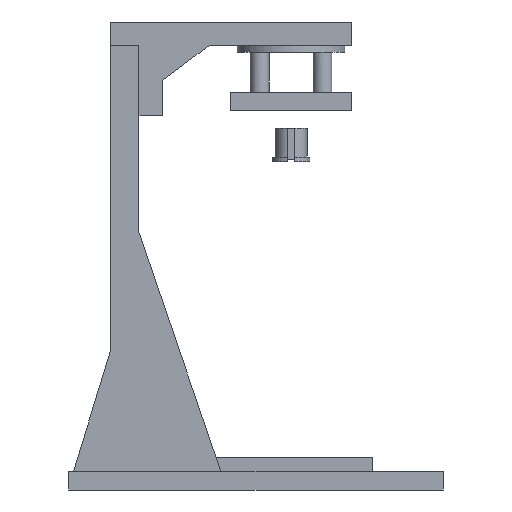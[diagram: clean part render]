
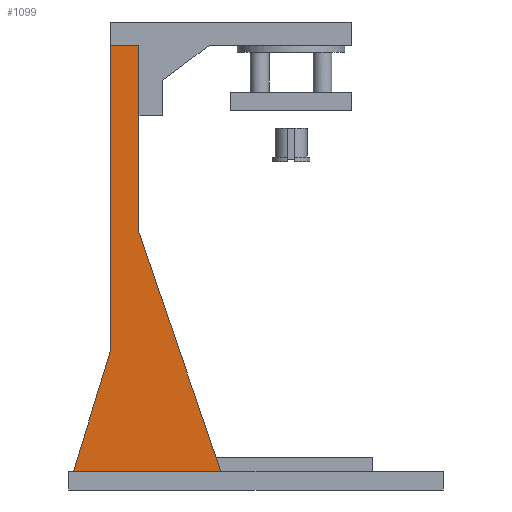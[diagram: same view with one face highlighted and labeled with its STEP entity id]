
A CAD part, left-side view. The second image highlights one B-rep face of the part: STEP entity #1099.
In plain terms, the highlighted planar face has unit normal (-1, 0, 0).
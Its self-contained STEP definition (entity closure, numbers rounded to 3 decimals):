
#156 = PLANE('',#157);
#157 = AXIS2_PLACEMENT_3D('',#158,#159,#160);
#158 = CARTESIAN_POINT('',(0.,0.,8.));
#159 = DIRECTION('',(0.,0.,1.));
#160 = DIRECTION('',(1.,0.,0.));
#410 = VERTEX_POINT('',#411);
#411 = CARTESIAN_POINT('',(45.,95.,8.));
#427 = PLANE('',#428);
#428 = AXIS2_PLACEMENT_3D('',#429,#430,#431);
#429 = CARTESIAN_POINT('',(45.,130.,110.));
#430 = DIRECTION('',(0.,0.946,-0.325));
#431 = DIRECTION('',(0.,-0.325,-0.946));
#439 = EDGE_CURVE('',#410,#440,#442,.T.);
#440 = VERTEX_POINT('',#441);
#441 = CARTESIAN_POINT('',(45.,158.,8.));
#442 = SURFACE_CURVE('',#443,(#447,#454),.PCURVE_S1.);
#443 = LINE('',#444,#445);
#444 = CARTESIAN_POINT('',(45.,95.,8.));
#445 = VECTOR('',#446,1.);
#446 = DIRECTION('',(0.,1.,0.));
#447 = PCURVE('',#156,#448);
#448 = DEFINITIONAL_REPRESENTATION('',(#449),#453);
#449 = LINE('',#450,#451);
#450 = CARTESIAN_POINT('',(45.,95.));
#451 = VECTOR('',#452,1.);
#452 = DIRECTION('',(0.,1.));
#453 = ( GEOMETRIC_REPRESENTATION_CONTEXT(2) 
PARAMETRIC_REPRESENTATION_CONTEXT() REPRESENTATION_CONTEXT('2D SPACE',''
  ) );
#454 = PCURVE('',#455,#460);
#455 = PLANE('',#456);
#456 = AXIS2_PLACEMENT_3D('',#457,#458,#459);
#457 = CARTESIAN_POINT('',(45.,146.601,30.601));
#458 = DIRECTION('',(1.,0.,0.));
#459 = DIRECTION('',(-0.,0.,1.));
#460 = DEFINITIONAL_REPRESENTATION('',(#461),#465);
#461 = LINE('',#462,#463);
#462 = CARTESIAN_POINT('',(-22.601,51.601));
#463 = VECTOR('',#464,1.);
#464 = DIRECTION('',(0.,-1.));
#465 = ( GEOMETRIC_REPRESENTATION_CONTEXT(2) 
PARAMETRIC_REPRESENTATION_CONTEXT() REPRESENTATION_CONTEXT('2D SPACE',''
  ) );
#483 = PLANE('',#484);
#484 = AXIS2_PLACEMENT_3D('',#485,#486,#487);
#485 = CARTESIAN_POINT('',(45.,158.,8.));
#486 = DIRECTION('',(0.,-0.956,-0.294));
#487 = DIRECTION('',(0.,-0.294,0.956));
#539 = PLANE('',#540);
#540 = AXIS2_PLACEMENT_3D('',#541,#542,#543);
#541 = CARTESIAN_POINT('',(45.,142.,8.));
#542 = DIRECTION('',(0.,1.,0.));
#543 = DIRECTION('',(0.,0.,1.));
#707 = PLANE('',#708);
#708 = AXIS2_PLACEMENT_3D('',#709,#710,#711);
#709 = CARTESIAN_POINT('',(45.,130.,8.));
#710 = DIRECTION('',(0.,1.,0.));
#711 = DIRECTION('',(0.,0.,1.));
#1033 = VERTEX_POINT('',#1034);
#1034 = CARTESIAN_POINT('',(45.,130.,110.));
#1079 = EDGE_CURVE('',#1033,#410,#1080,.T.);
#1080 = SURFACE_CURVE('',#1081,(#1085,#1092),.PCURVE_S1.);
#1081 = LINE('',#1082,#1083);
#1082 = CARTESIAN_POINT('',(45.,130.,110.));
#1083 = VECTOR('',#1084,1.);
#1084 = DIRECTION('',(0.,-0.325,-0.946));
#1085 = PCURVE('',#427,#1086);
#1086 = DEFINITIONAL_REPRESENTATION('',(#1087),#1091);
#1087 = LINE('',#1088,#1089);
#1088 = CARTESIAN_POINT('',(0.,0.));
#1089 = VECTOR('',#1090,1.);
#1090 = DIRECTION('',(1.,0.));
#1091 = ( GEOMETRIC_REPRESENTATION_CONTEXT(2) 
PARAMETRIC_REPRESENTATION_CONTEXT() REPRESENTATION_CONTEXT('2D SPACE',''
  ) );
#1092 = PCURVE('',#455,#1093);
#1093 = DEFINITIONAL_REPRESENTATION('',(#1094),#1098);
#1094 = LINE('',#1095,#1096);
#1095 = CARTESIAN_POINT('',(79.399,16.601));
#1096 = VECTOR('',#1097,1.);
#1097 = DIRECTION('',(-0.946,0.325));
#1098 = ( GEOMETRIC_REPRESENTATION_CONTEXT(2) 
PARAMETRIC_REPRESENTATION_CONTEXT() REPRESENTATION_CONTEXT('2D SPACE',''
  ) );
#1099 = ADVANCED_FACE('',(#1100),#455,.F.);
#1100 = FACE_BOUND('',#1101,.F.);
#1101 = EDGE_LOOP('',(#1102,#1125,#1148,#1176,#1197,#1198));
#1102 = ORIENTED_EDGE('',*,*,#1103,.T.);
#1103 = EDGE_CURVE('',#440,#1104,#1106,.T.);
#1104 = VERTEX_POINT('',#1105);
#1105 = CARTESIAN_POINT('',(45.,142.,60.));
#1106 = SURFACE_CURVE('',#1107,(#1111,#1118),.PCURVE_S1.);
#1107 = LINE('',#1108,#1109);
#1108 = CARTESIAN_POINT('',(45.,158.,8.));
#1109 = VECTOR('',#1110,1.);
#1110 = DIRECTION('',(0.,-0.294,0.956));
#1111 = PCURVE('',#455,#1112);
#1112 = DEFINITIONAL_REPRESENTATION('',(#1113),#1117);
#1113 = LINE('',#1114,#1115);
#1114 = CARTESIAN_POINT('',(-22.601,-11.399));
#1115 = VECTOR('',#1116,1.);
#1116 = DIRECTION('',(0.956,0.294));
#1117 = ( GEOMETRIC_REPRESENTATION_CONTEXT(2) 
PARAMETRIC_REPRESENTATION_CONTEXT() REPRESENTATION_CONTEXT('2D SPACE',''
  ) );
#1118 = PCURVE('',#483,#1119);
#1119 = DEFINITIONAL_REPRESENTATION('',(#1120),#1124);
#1120 = LINE('',#1121,#1122);
#1121 = CARTESIAN_POINT('',(0.,0.));
#1122 = VECTOR('',#1123,1.);
#1123 = DIRECTION('',(1.,0.));
#1124 = ( GEOMETRIC_REPRESENTATION_CONTEXT(2) 
PARAMETRIC_REPRESENTATION_CONTEXT() REPRESENTATION_CONTEXT('2D SPACE',''
  ) );
#1125 = ORIENTED_EDGE('',*,*,#1126,.T.);
#1126 = EDGE_CURVE('',#1104,#1127,#1129,.T.);
#1127 = VERTEX_POINT('',#1128);
#1128 = CARTESIAN_POINT('',(45.,142.,190.));
#1129 = SURFACE_CURVE('',#1130,(#1134,#1141),.PCURVE_S1.);
#1130 = LINE('',#1131,#1132);
#1131 = CARTESIAN_POINT('',(45.,142.,8.));
#1132 = VECTOR('',#1133,1.);
#1133 = DIRECTION('',(0.,0.,1.));
#1134 = PCURVE('',#455,#1135);
#1135 = DEFINITIONAL_REPRESENTATION('',(#1136),#1140);
#1136 = LINE('',#1137,#1138);
#1137 = CARTESIAN_POINT('',(-22.601,4.601));
#1138 = VECTOR('',#1139,1.);
#1139 = DIRECTION('',(1.,0.));
#1140 = ( GEOMETRIC_REPRESENTATION_CONTEXT(2) 
PARAMETRIC_REPRESENTATION_CONTEXT() REPRESENTATION_CONTEXT('2D SPACE',''
  ) );
#1141 = PCURVE('',#539,#1142);
#1142 = DEFINITIONAL_REPRESENTATION('',(#1143),#1147);
#1143 = LINE('',#1144,#1145);
#1144 = CARTESIAN_POINT('',(0.,0.));
#1145 = VECTOR('',#1146,1.);
#1146 = DIRECTION('',(1.,0.));
#1147 = ( GEOMETRIC_REPRESENTATION_CONTEXT(2) 
PARAMETRIC_REPRESENTATION_CONTEXT() REPRESENTATION_CONTEXT('2D SPACE',''
  ) );
#1148 = ORIENTED_EDGE('',*,*,#1149,.F.);
#1149 = EDGE_CURVE('',#1150,#1127,#1152,.T.);
#1150 = VERTEX_POINT('',#1151);
#1151 = CARTESIAN_POINT('',(45.,130.,190.));
#1152 = SURFACE_CURVE('',#1153,(#1157,#1164),.PCURVE_S1.);
#1153 = LINE('',#1154,#1155);
#1154 = CARTESIAN_POINT('',(45.,130.,190.));
#1155 = VECTOR('',#1156,1.);
#1156 = DIRECTION('',(0.,1.,0.));
#1157 = PCURVE('',#455,#1158);
#1158 = DEFINITIONAL_REPRESENTATION('',(#1159),#1163);
#1159 = LINE('',#1160,#1161);
#1160 = CARTESIAN_POINT('',(159.399,16.601));
#1161 = VECTOR('',#1162,1.);
#1162 = DIRECTION('',(0.,-1.));
#1163 = ( GEOMETRIC_REPRESENTATION_CONTEXT(2) 
PARAMETRIC_REPRESENTATION_CONTEXT() REPRESENTATION_CONTEXT('2D SPACE',''
  ) );
#1164 = PCURVE('',#1165,#1170);
#1165 = PLANE('',#1166);
#1166 = AXIS2_PLACEMENT_3D('',#1167,#1168,#1169);
#1167 = CARTESIAN_POINT('',(45.,130.,190.));
#1168 = DIRECTION('',(0.,0.,1.));
#1169 = DIRECTION('',(1.,0.,0.));
#1170 = DEFINITIONAL_REPRESENTATION('',(#1171),#1175);
#1171 = LINE('',#1172,#1173);
#1172 = CARTESIAN_POINT('',(0.,0.));
#1173 = VECTOR('',#1174,1.);
#1174 = DIRECTION('',(0.,1.));
#1175 = ( GEOMETRIC_REPRESENTATION_CONTEXT(2) 
PARAMETRIC_REPRESENTATION_CONTEXT() REPRESENTATION_CONTEXT('2D SPACE',''
  ) );
#1176 = ORIENTED_EDGE('',*,*,#1177,.F.);
#1177 = EDGE_CURVE('',#1033,#1150,#1178,.T.);
#1178 = SURFACE_CURVE('',#1179,(#1183,#1190),.PCURVE_S1.);
#1179 = LINE('',#1180,#1181);
#1180 = CARTESIAN_POINT('',(45.,130.,8.));
#1181 = VECTOR('',#1182,1.);
#1182 = DIRECTION('',(0.,0.,1.));
#1183 = PCURVE('',#455,#1184);
#1184 = DEFINITIONAL_REPRESENTATION('',(#1185),#1189);
#1185 = LINE('',#1186,#1187);
#1186 = CARTESIAN_POINT('',(-22.601,16.601));
#1187 = VECTOR('',#1188,1.);
#1188 = DIRECTION('',(1.,0.));
#1189 = ( GEOMETRIC_REPRESENTATION_CONTEXT(2) 
PARAMETRIC_REPRESENTATION_CONTEXT() REPRESENTATION_CONTEXT('2D SPACE',''
  ) );
#1190 = PCURVE('',#707,#1191);
#1191 = DEFINITIONAL_REPRESENTATION('',(#1192),#1196);
#1192 = LINE('',#1193,#1194);
#1193 = CARTESIAN_POINT('',(0.,0.));
#1194 = VECTOR('',#1195,1.);
#1195 = DIRECTION('',(1.,0.));
#1196 = ( GEOMETRIC_REPRESENTATION_CONTEXT(2) 
PARAMETRIC_REPRESENTATION_CONTEXT() REPRESENTATION_CONTEXT('2D SPACE',''
  ) );
#1197 = ORIENTED_EDGE('',*,*,#1079,.T.);
#1198 = ORIENTED_EDGE('',*,*,#439,.T.);
